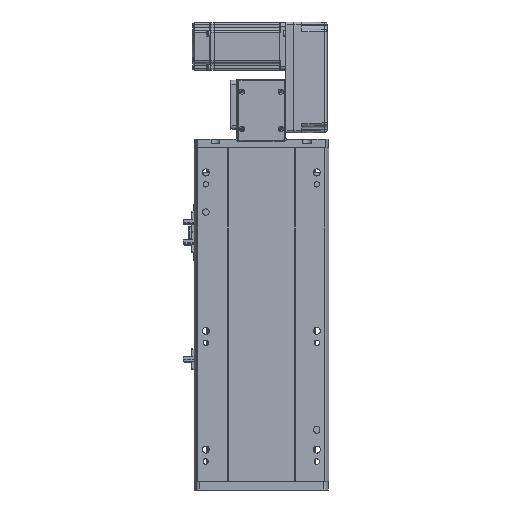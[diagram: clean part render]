
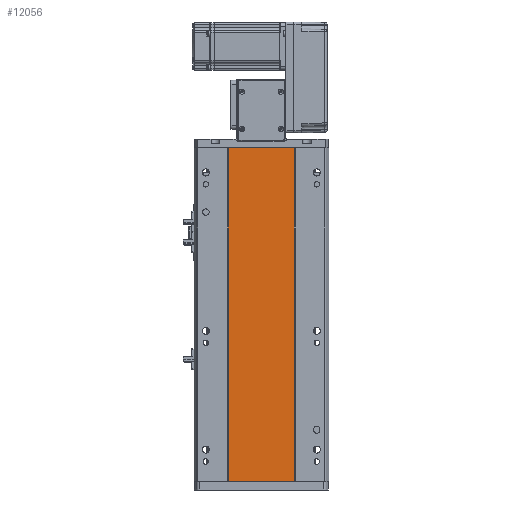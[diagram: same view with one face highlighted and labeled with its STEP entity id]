
A CAD part, front view. The second image highlights one B-rep face of the part: STEP entity #12056.
In plain terms, the highlighted planar face has unit normal (0, -1, 0).
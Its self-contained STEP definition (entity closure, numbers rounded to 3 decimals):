
#668 = EDGE_CURVE ( 'NONE', #1947, #8394, #44843, .T. ) ;
#1216 = CARTESIAN_POINT ( 'NONE',  ( -41.791, 1., 0. ) ) ;
#1947 = VERTEX_POINT ( 'NONE', #1216 ) ;
#5808 = EDGE_CURVE ( 'NONE', #9674, #1947, #27681, .T. ) ;
#8394 = VERTEX_POINT ( 'NONE', #14854 ) ;
#9674 = VERTEX_POINT ( 'NONE', #59107 ) ;
#10400 = ORIENTED_EDGE ( 'NONE', *, *, #5808, .T. ) ;
#10612 = EDGE_CURVE ( 'NONE', #18425, #8394, #25565, .T. ) ;
#12056 = ADVANCED_FACE ( 'NONE', ( #40747 ), #41666, .F. ) ;
#13683 = CARTESIAN_POINT ( 'NONE',  ( 0., 0.999, 421. ) ) ;
#14163 = DIRECTION ( 'NONE',  ( 0., 0., -1. ) ) ;
#14281 = DIRECTION ( 'NONE',  ( 0., 1., 0. ) ) ;
#14335 = ORIENTED_EDGE ( 'NONE', *, *, #44522, .F. ) ;
#14745 = AXIS2_PLACEMENT_3D ( 'NONE', #13683, #14281, #33063 ) ;
#14854 = CARTESIAN_POINT ( 'NONE',  ( 41.793, 0.998, 0. ) ) ;
#18425 = VERTEX_POINT ( 'NONE', #47871 ) ;
#18980 = EDGE_LOOP ( 'NONE', ( #57830, #53169, #14335, #10400 ) ) ;
#25565 = LINE ( 'NONE', #32561, #54965 ) ;
#25761 = DIRECTION ( 'NONE',  ( 1., 0., 0. ) ) ;
#27681 = LINE ( 'NONE', #40941, #51178 ) ;
#30254 = CARTESIAN_POINT ( 'NONE',  ( 0., 0.999, 0. ) ) ;
#32101 = CARTESIAN_POINT ( 'NONE',  ( 0., 0.999, 421. ) ) ;
#32561 = CARTESIAN_POINT ( 'NONE',  ( 41.793, 0.998, 421. ) ) ;
#33063 = DIRECTION ( 'NONE',  ( -1., 0., 0. ) ) ;
#34168 = VECTOR ( 'NONE', #51211, 1000. ) ;
#40006 = LINE ( 'NONE', #32101, #34168 ) ;
#40747 = FACE_OUTER_BOUND ( 'NONE', #18980, .T. ) ;
#40941 = CARTESIAN_POINT ( 'NONE',  ( -41.791, 1., 421. ) ) ;
#41666 = PLANE ( 'NONE',  #14745 ) ;
#44522 = EDGE_CURVE ( 'NONE', #9674, #18425, #40006, .T. ) ;
#44843 = LINE ( 'NONE', #30254, #45558 ) ;
#45558 = VECTOR ( 'NONE', #25761, 1000. ) ;
#45933 = DIRECTION ( 'NONE',  ( 0., 0., -1. ) ) ;
#47871 = CARTESIAN_POINT ( 'NONE',  ( 41.793, 0.998, 421. ) ) ;
#51178 = VECTOR ( 'NONE', #45933, 1000. ) ;
#51211 = DIRECTION ( 'NONE',  ( 1., 0., 0. ) ) ;
#53169 = ORIENTED_EDGE ( 'NONE', *, *, #10612, .F. ) ;
#54965 = VECTOR ( 'NONE', #14163, 1000. ) ;
#57830 = ORIENTED_EDGE ( 'NONE', *, *, #668, .T. ) ;
#59107 = CARTESIAN_POINT ( 'NONE',  ( -41.791, 1., 421. ) ) ;
